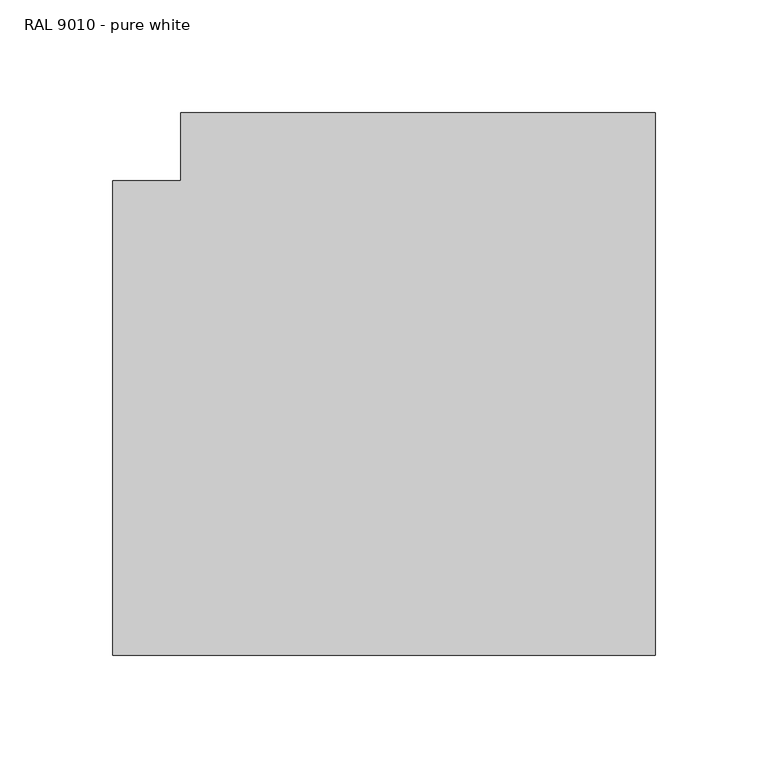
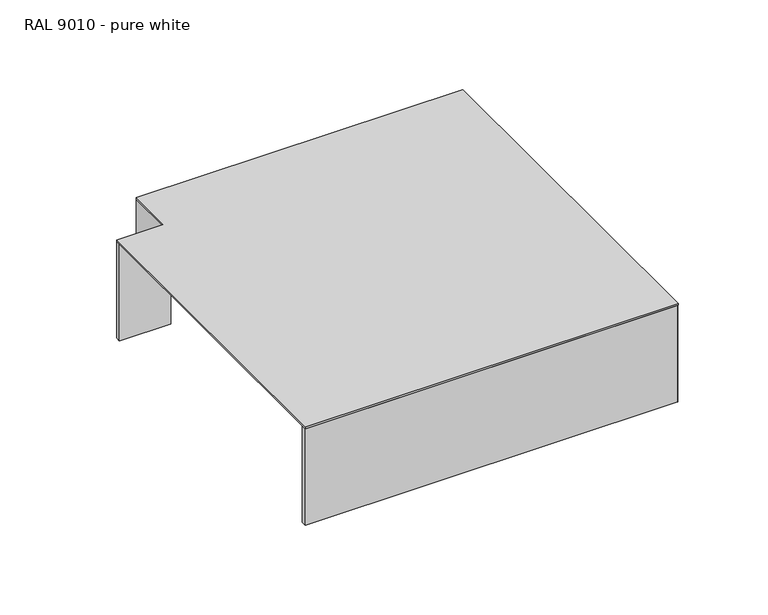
"""IFC4 building model written with IfcOpenShell, lengths in millimetres: cable carrier fitting geometry, Electrical_Installations_Hager_BRP-Flat-Corner-PC-ABS-Vertical-Inside-And-Outside-Bend-Two-Compartments : RAL 9010 - pure white."""

from ifc_helpers import new_model, si_unit, point, frame, frame_2d, origin, place, context, project, spatial, polyline, circle_curve, trimmed, segment, composite_curve, outline, extrude, source, transform, mapped, element, save


def ral_9010_pure_white_1ff2ae2c(model_context):
    return source(origin(), model_context, "Body", "SweptSolid", [
        extrude(outline(polyline([(-105.0, 135.0), (105.0, 135.0), (105.0, -105.0), (-135.0, -105.0), (-135.0, 105.0), (-105.0, 105.0), (-105.0, 135.0)])), frame((0.0, 0.0, 32.8402081), z_axis=(0.0, 0.0, 1.0), x_axis=(1.0, 0.0, 0.0)), (0.0, 0.0, 1.0), 1.1597919),
        extrude(outline(composite_curve([segment(polyline([(104.3130803, -105.0), (-135.0, -105.0), (-135.0, -102.0), (102.0, -102.0), (102.0, 135.0), (105.0, 135.0), (105.0, -104.3130803)]), True, "CONTINUOUS"), segment(trimmed(circle_curve(frame_2d((104.3130803, -104.3130803)), 0.6869197), [point((105.0, -104.3130803))], [point((104.3130803, -105.0))], False, "CARTESIAN"), True, "CONTINUOUS")], self_intersect=False)), frame((0.0, 0.0, -32.8402081), z_axis=(0.0, 0.0, 1.0), x_axis=(1.0, 0.0, 0.0)), (0.0, 0.0, 1.0), 65.6804162),
        extrude(outline(polyline([(-105.0, 105.0), (-105.0, 135.0), (-102.0, 135.0), (-102.0, 102.0), (-135.0, 102.0), (-135.0, 105.0), (-105.0, 105.0)])), frame((0.0, 0.0, -32.8402081), z_axis=(0.0, 0.0, 1.0), x_axis=(1.0, 0.0, 0.0)), (0.0, 0.0, 1.0), 65.6804162),
    ])


if __name__ == "__main__":
    model = new_model("IFC4")
    model_context = context("Model", 3, world=origin())
    ifc_project = project(units=[si_unit("LENGTHUNIT", "METRE", prefix="MILLI")], contexts=[model_context])
    site = spatial("IfcSite", under=ifc_project)
    building = spatial("IfcBuilding", under=site)
    placement = place(None, origin())
    ral_9010_pure_white_shape = ral_9010_pure_white_1ff2ae2c(model_context)
    element("IfcCableCarrierFitting", 1, ObjectType="Electrical_Installations_Hager_BRP-Flat-Corner-PC-ABS-Vertical-Inside-And-Outside-Bend-Two-Compartments : RAL 9010 - pure white", at=placement, inside=building, context=model_context, shape_type="MappedRepresentation", body=[
        mapped(ral_9010_pure_white_shape, transform((0.0, 0.0, 0.0), x_axis=(1.0, 0.0, 0.0), y_axis=(0.0, 1.0, 0.0), z_axis=(0.0, 0.0, 1.0))),
    ])
    save(model, "model.ifc")
